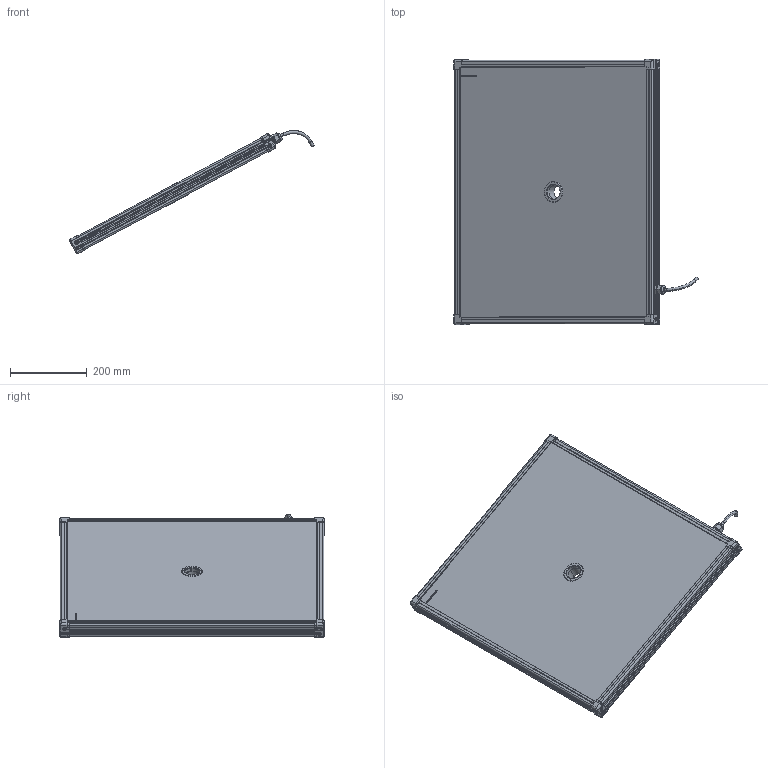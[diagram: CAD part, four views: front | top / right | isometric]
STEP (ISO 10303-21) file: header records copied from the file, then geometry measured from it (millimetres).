
FILE_DESCRIPTION (( 'STEP AP214' ), '1' );
FILE_NAME ('EFFI-FD-550-650-ZZZ-1M12P.STEP', '2021-06-22T07:57:25', ( '' ), ( '' ), 'SwSTEP 2.0', 'SolidWorks 2021', '' );
FILE_SCHEMA (( 'AUTOMOTIVE_DESIGN' ));
Length unit declared in the file: millimetre
Products named in the file (13): Pièce13^EFFI-FD-XXX-YYY-ZZZ (1 connecteur) M12POWER Ø39; petite joue + vis; petite joue; profile Y_PERCE; profile X_PERCE; 001035; 000590; 000629; EFFI-FD-550-650-ZZZ-1M12P; assemblage Ø39; M12 power_AVEC CABLE D8.1; 001036
Assembly tree (19 placements, depth 3):
  EFFI-FD-550-650-ZZZ-1M12P
    profile X_PERCE  x2
    profile Y_PERCE
    profile Y_PERCE
    Pièce13^EFFI-FD-XXX-YYY-ZZZ (1 connecteur) M12POWER Ø39
    petite joue + vis  x4
      petite joue
      000629
    M12 power_AVEC CABLE D8.1
    assemblage Ø39
      001036
      000590  x3
      001035
Bounding box: 635.41 x 689 x 320.39 mm (x, y, z)
Volume: 14036351.2 mm3; surface area: 1205186.7 mm2
Topology: 22 solids, 25 shells, 3896 faces, 10381 edges, 6830 vertices
Faces by surface type: plane 2438, cylinder 691, bspline 591, cone 154, torus 22
Entity records: 54477 total; most frequent: CARTESIAN_POINT 22298, ORIENTED_EDGE 6752, DIRECTION 5429, EDGE_CURVE 3378, LINE 2403, VECTOR 2403, VERTEX_POINT 2231, AXIS2_PLACEMENT_3D 1513
